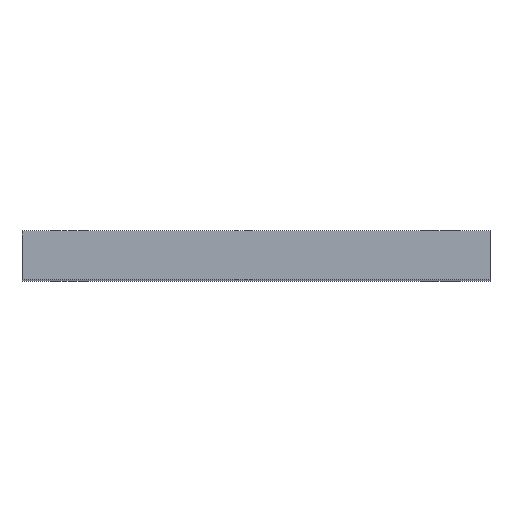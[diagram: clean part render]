
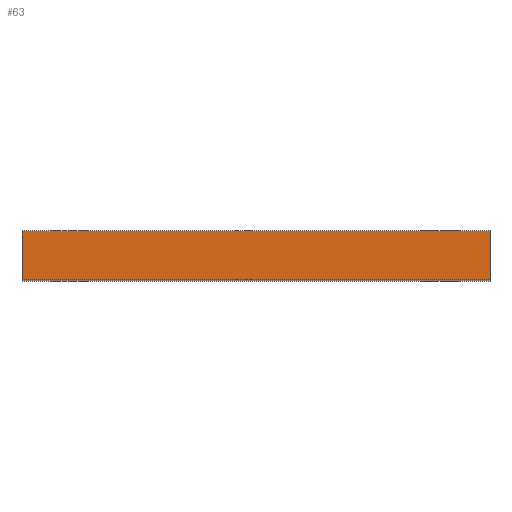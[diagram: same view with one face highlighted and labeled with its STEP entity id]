
A CAD part, top view. The second image highlights one B-rep face of the part: STEP entity #63.
In plain terms, the highlighted planar face has unit normal (0, 0, 1).
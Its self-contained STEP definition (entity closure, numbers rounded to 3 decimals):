
#1 = DIRECTION ( 'NONE',  ( 0., -1., 0. ) ) ;
#29 = CARTESIAN_POINT ( 'NONE',  ( 173., 36., 298. ) ) ;
#40 = EDGE_CURVE ( 'NONE', #179, #584, #432, .T. ) ;
#45 = ORIENTED_EDGE ( 'NONE', *, *, #511, .F. ) ;
#53 = AXIS2_PLACEMENT_3D ( 'NONE', #794, #673, #434 ) ;
#54 = VECTOR ( 'NONE', #1, 1000. ) ;
#63 = ADVANCED_FACE ( 'NONE', ( #272 ), #622, .F. ) ;
#131 = ORIENTED_EDGE ( 'NONE', *, *, #765, .T. ) ;
#179 = VERTEX_POINT ( 'NONE', #199 ) ;
#180 = DIRECTION ( 'NONE',  ( 1., 0., 0. ) ) ;
#199 = CARTESIAN_POINT ( 'NONE',  ( -173., 36., 298. ) ) ;
#253 = ORIENTED_EDGE ( 'NONE', *, *, #719, .T. ) ;
#272 = FACE_OUTER_BOUND ( 'NONE', #688, .T. ) ;
#283 = VERTEX_POINT ( 'NONE', #508 ) ;
#302 = VECTOR ( 'NONE', #421, 1000. ) ;
#393 = CARTESIAN_POINT ( 'NONE',  ( -173., 0., 298. ) ) ;
#421 = DIRECTION ( 'NONE',  ( 0., -1., 0. ) ) ;
#425 = DIRECTION ( 'NONE',  ( 1., 0., 0. ) ) ;
#432 = LINE ( 'NONE', #722, #471 ) ;
#434 = DIRECTION ( 'NONE',  ( -1., 0., 0. ) ) ;
#471 = VECTOR ( 'NONE', #425, 1000. ) ;
#481 = LINE ( 'NONE', #499, #54 ) ;
#499 = CARTESIAN_POINT ( 'NONE',  ( -173., 36., 298. ) ) ;
#508 = CARTESIAN_POINT ( 'NONE',  ( 173., 0., 298. ) ) ;
#511 = EDGE_CURVE ( 'NONE', #584, #283, #564, .T. ) ;
#558 = CARTESIAN_POINT ( 'NONE',  ( -173., 0., 298. ) ) ;
#564 = LINE ( 'NONE', #711, #302 ) ;
#568 = VERTEX_POINT ( 'NONE', #393 ) ;
#584 = VERTEX_POINT ( 'NONE', #29 ) ;
#591 = ORIENTED_EDGE ( 'NONE', *, *, #40, .F. ) ;
#622 = PLANE ( 'NONE',  #53 ) ;
#673 = DIRECTION ( 'NONE',  ( 0., 0., -1. ) ) ;
#675 = VECTOR ( 'NONE', #180, 1000. ) ;
#688 = EDGE_LOOP ( 'NONE', ( #253, #45, #591, #131 ) ) ;
#711 = CARTESIAN_POINT ( 'NONE',  ( 173., 36., 298. ) ) ;
#719 = EDGE_CURVE ( 'NONE', #568, #283, #734, .T. ) ;
#722 = CARTESIAN_POINT ( 'NONE',  ( -173., 36., 298. ) ) ;
#734 = LINE ( 'NONE', #558, #675 ) ;
#765 = EDGE_CURVE ( 'NONE', #179, #568, #481, .T. ) ;
#794 = CARTESIAN_POINT ( 'NONE',  ( -173., 36., 298. ) ) ;
